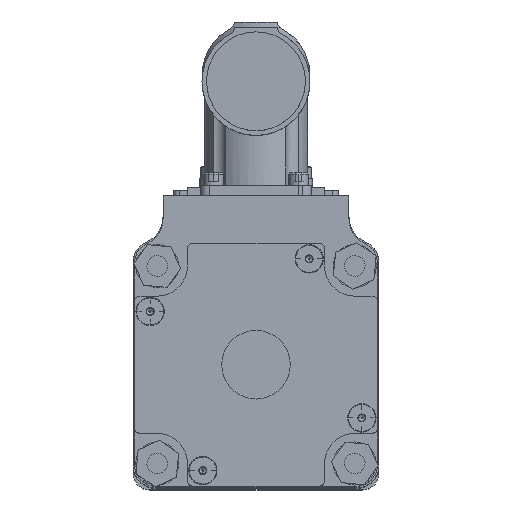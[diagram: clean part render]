
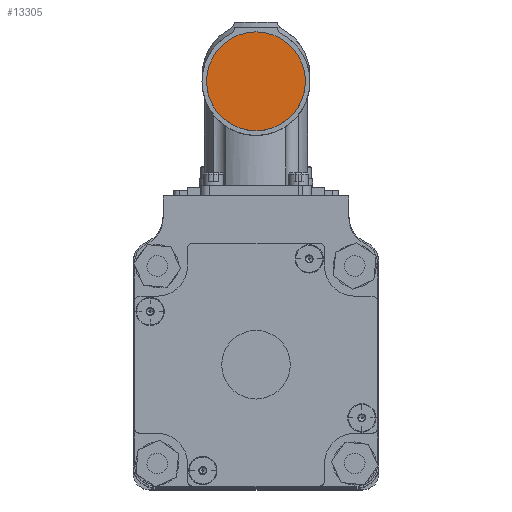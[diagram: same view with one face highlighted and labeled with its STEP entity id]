
A CAD part, top view. The second image highlights one B-rep face of the part: STEP entity #13305.
In plain terms, the highlighted planar face has unit normal (0, 0, 1) as drawn and (0, 1, 0) by its records, which use the part's own axes.
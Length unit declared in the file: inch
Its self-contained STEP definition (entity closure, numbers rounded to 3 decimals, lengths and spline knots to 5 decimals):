
#12435 = VERTEX_POINT ( 'NONE', #25988 ) ;
#12969 = VERTEX_POINT ( 'NONE', #27085 ) ;
#12975 = EDGE_CURVE ( 'NONE', #12969, #12435, #27060, .T. ) ;
#13213 = ORIENTED_EDGE ( 'NONE', *, *, #12975, .T. ) ;
#13215 = ORIENTED_EDGE ( 'NONE', *, *, #13302, .T. ) ;
#13302 = EDGE_CURVE ( 'NONE', #12435, #12969, #27702, .T. ) ;
#13305 = ADVANCED_FACE ( 'NONE', ( #27707 ), #27706, .F. ) ;
#13306 = EDGE_LOOP ( 'NONE', ( #13213, #13215 ) ) ;
#25988 = CARTESIAN_POINT ( 'NONE',  ( 0.4505, 1.90134, 1.04331 ) ) ;
#27056 = DIRECTION ( 'NONE',  ( -1., 0., 0. ) ) ;
#27057 = DIRECTION ( 'NONE',  ( 0., 1., 0. ) ) ;
#27058 = CARTESIAN_POINT ( 'NONE',  ( 0., 1.90134, 1.04331 ) ) ;
#27059 = AXIS2_PLACEMENT_3D ( 'NONE', #27058, #27057, #27056 ) ;
#27060 = CIRCLE ( 'NONE', #27059, 0.4505 ) ;
#27085 = CARTESIAN_POINT ( 'NONE',  ( -0.4505, 1.90134, 1.04331 ) ) ;
#27702 = CIRCLE ( 'NONE', #27732, 0.4505 ) ;
#27705 = AXIS2_PLACEMENT_3D ( 'NONE', #27730, #27729, #27728 ) ;
#27706 = PLANE ( 'NONE',  #27705 ) ;
#27707 = FACE_OUTER_BOUND ( 'NONE', #13306, .T. ) ;
#27710 = DIRECTION ( 'NONE',  ( -1., 0., 0. ) ) ;
#27711 = DIRECTION ( 'NONE',  ( 0., 1., 0. ) ) ;
#27728 = DIRECTION ( 'NONE',  ( 1., 0., 0. ) ) ;
#27729 = DIRECTION ( 'NONE',  ( 0., -1., 0. ) ) ;
#27730 = CARTESIAN_POINT ( 'NONE',  ( -0.26247, 1.90134, 1.53543 ) ) ;
#27731 = CARTESIAN_POINT ( 'NONE',  ( 0., 1.90134, 1.04331 ) ) ;
#27732 = AXIS2_PLACEMENT_3D ( 'NONE', #27731, #27711, #27710 ) ;
